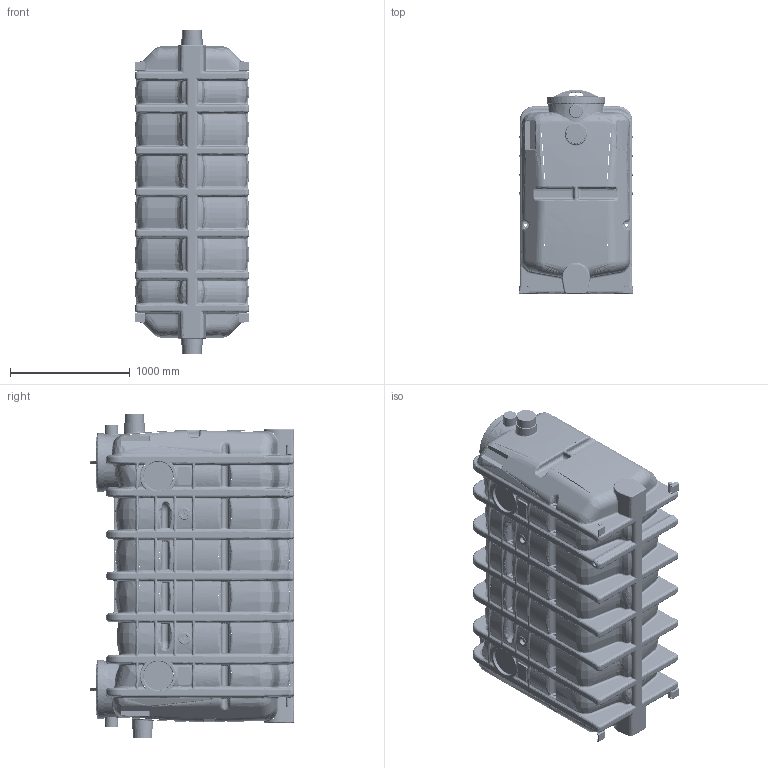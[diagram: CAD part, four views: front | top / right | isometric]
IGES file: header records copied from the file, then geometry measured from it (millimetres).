
Start section: SolidWorks IGES file using analytic representation for surfaces
Global section: file name: C:\Documents and Settings\sparagond\Desktop\35603400 _ O-BASIC.IGS; native system: SolidWorks 2010; preprocessor: SolidWorks 2010; author: sparagond; date: 101122.080531; units: millimetre
Bounding box: 950 x 1699.72 x 2700 mm (x, y, z)
Surface area: 17312610.4 mm2 (no closed solid volume)
Topology: 0 solids, 0 shells, 5326 faces, 57639 edges, 57603 vertices
Faces by surface type: bspline 3661, revolution 1665
